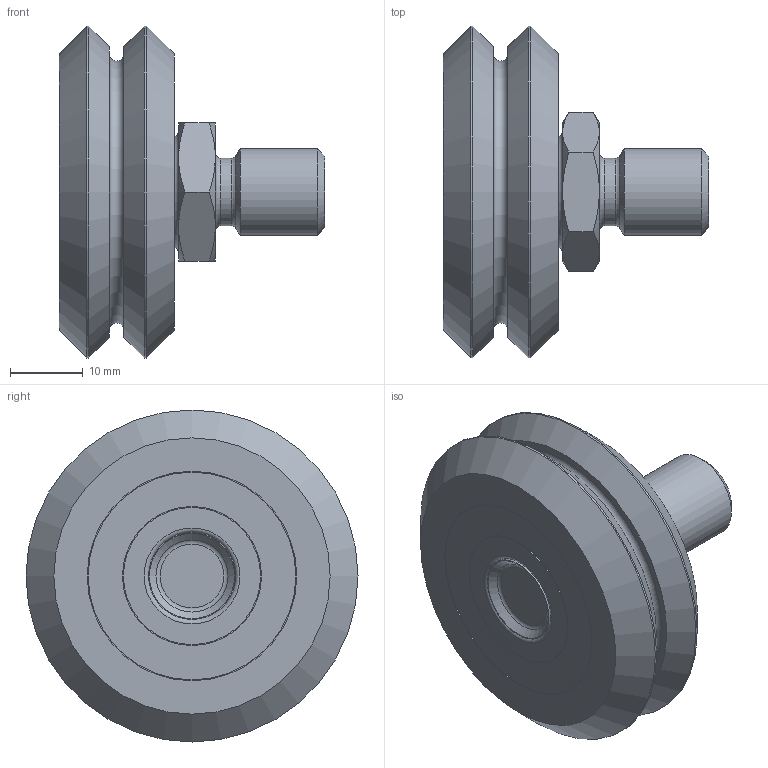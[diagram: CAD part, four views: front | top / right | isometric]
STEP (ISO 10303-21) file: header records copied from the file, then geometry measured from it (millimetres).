
FILE_DESCRIPTION( ( 'STEP AP214' ), '1' );
FILE_NAME( 'p:/temp/worker_51/temp/app_48_02019012316073188351423192d056f_000000_00_00_000000/format_0/SWSC3XA.stp', '2019-01-23T15:07:32', ( '' ), ( '' ), ' ', 'PARTsolutions', ' ' );
FILE_SCHEMA( ( 'AUTOMOTIVE_DESIGN { 1 0 10303 214 1 1 1 1 }' ) );
Length unit declared in the file: inch
Products named in the file (3): SWSC3XA; _SWSC3; _W3X
Assembly tree (2 placements, depth 2):
  SWSC3XA
    _SWSC3
    _W3X
Bounding box: 36.68 x 45.8 x 45.8 mm (x, y, z)
Volume: 24797.4 mm3; surface area: 8119.5 mm2
Topology: 2 solids, 2 shells, 65 faces, 116 edges, 69 vertices
Faces by surface type: plane 24, cone 19, cylinder 14, torus 8
Full cylindrical faces by diameter (mm): 9.296 x1, 11.989 x1, 11.999 x1, 12 x1, 18.923 x2, 19.177 x2, 28.638 x2, 28.892 x2, 45.796 x2
Entity records: 2088 total; most frequent: CARTESIAN_POINT 360, DIRECTION 256, ORIENTED_EDGE 174, AXIS2_PLACEMENT_3D 125, EDGE_LOOP 110, FACE_OUTER_BOUND 87, EDGE_CURVE 87, VERTEX_POINT 69
